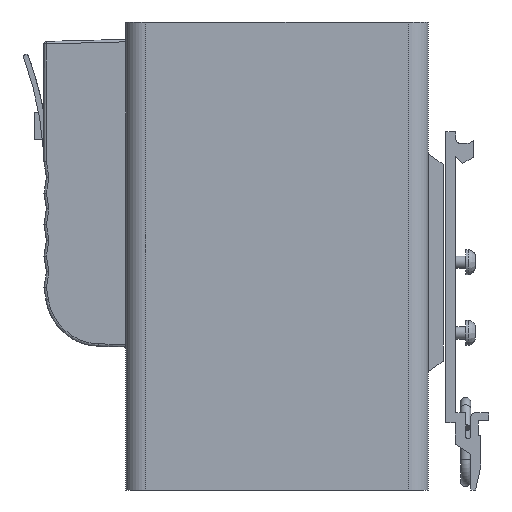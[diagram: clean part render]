
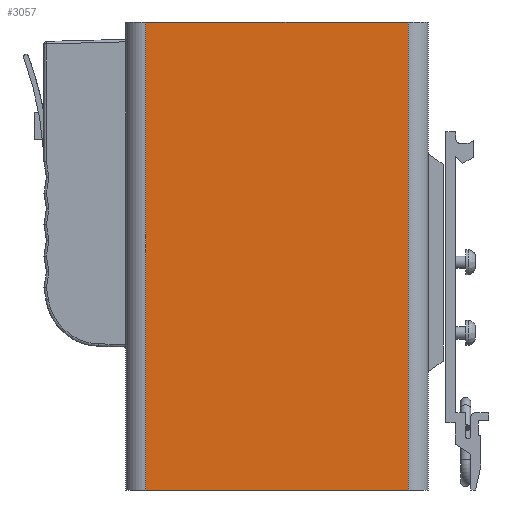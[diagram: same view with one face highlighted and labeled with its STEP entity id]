
A CAD part, left-side view. The second image highlights one B-rep face of the part: STEP entity #3057.
In plain terms, the highlighted planar face has unit normal (-1, 0, 0).
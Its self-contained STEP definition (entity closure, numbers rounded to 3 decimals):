
#3057=ADVANCED_FACE('',(#5088),#3948,.F.);
#3948=PLANE('',#26200);
#5088=FACE_OUTER_BOUND('',#6594,.T.);
#6594=EDGE_LOOP('',(#12893,#12894,#12895,#12896));
#12893=ORIENTED_EDGE('',*,*,#18986,.T.);
#12894=ORIENTED_EDGE('',*,*,#18659,.T.);
#12895=ORIENTED_EDGE('',*,*,#18984,.F.);
#12896=ORIENTED_EDGE('',*,*,#18987,.F.);
#15436=VERTEX_POINT('',#39695);
#15437=VERTEX_POINT('',#39697);
#15675=VERTEX_POINT('',#40650);
#15676=VERTEX_POINT('',#40654);
#18659=EDGE_CURVE('',#15437,#15436,#21401,.T.);
#18984=EDGE_CURVE('',#15675,#15436,#21620,.T.);
#18986=EDGE_CURVE('',#15676,#15437,#21621,.T.);
#18987=EDGE_CURVE('',#15676,#15675,#21622,.T.);
#21401=LINE('',#39696,#23962);
#21620=LINE('',#40649,#24181);
#21621=LINE('',#40653,#24182);
#21622=LINE('',#40655,#24183);
#23962=VECTOR('',#31875,1.);
#24181=VECTOR('',#32404,1.);
#24182=VECTOR('',#32409,1.);
#24183=VECTOR('',#32410,1.);
#26200=AXIS2_PLACEMENT_3D('',#40656,#32411,#32412);
#31875=DIRECTION('',(0.,1.,0.));
#32404=DIRECTION('',(0.,0.,1.));
#32409=DIRECTION('',(0.,0.,1.));
#32410=DIRECTION('',(0.,1.,0.));
#32411=DIRECTION('',(1.,0.,0.));
#32412=DIRECTION('',(0.,0.,-1.));
#39695=CARTESIAN_POINT('',(49.6,29.672,4.8));
#39696=CARTESIAN_POINT('',(49.6,-23.128,4.8));
#39697=CARTESIAN_POINT('',(49.6,-23.128,4.8));
#40649=CARTESIAN_POINT('',(49.6,29.672,-71.));
#40650=CARTESIAN_POINT('',(49.6,29.672,-89.2));
#40653=CARTESIAN_POINT('',(49.6,-23.128,-71.));
#40654=CARTESIAN_POINT('',(49.6,-23.128,-89.2));
#40655=CARTESIAN_POINT('',(49.6,-23.128,-89.2));
#40656=CARTESIAN_POINT('',(49.6,-23.128,-71.));
